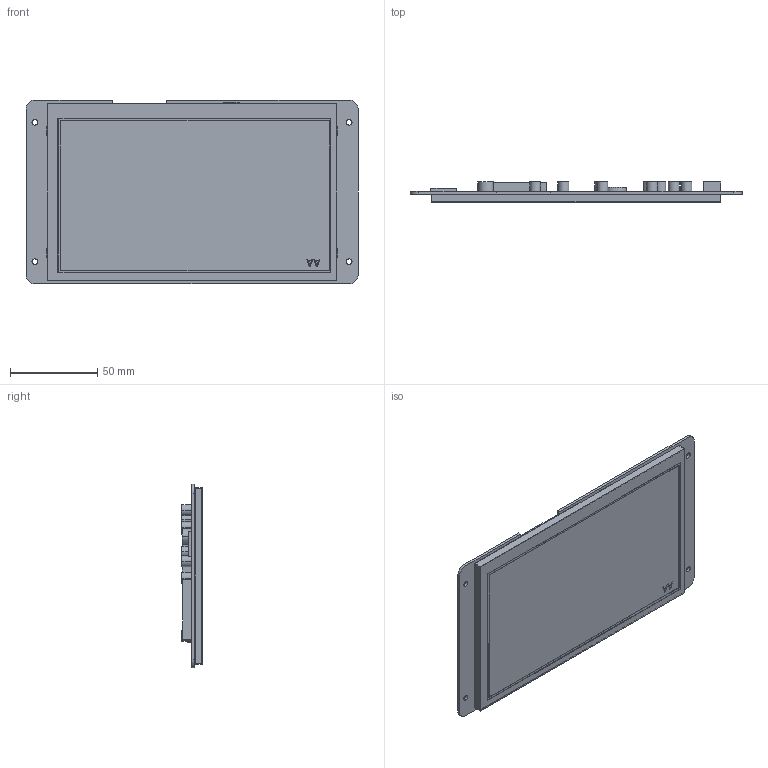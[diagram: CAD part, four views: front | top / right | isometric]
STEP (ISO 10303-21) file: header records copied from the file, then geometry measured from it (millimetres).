
FILE_DESCRIPTION((''),'2;1');
FILE_NAME('DMG10600K070-03WTC_ASM','2022-02-21T',('Administrator'),(''),'PRO/ENGINEER BY PARAMETRIC TECHNOLOGY CORPORATION, 2014320','PRO/ENGINEER BY PARAMETRIC TECHNOLOGY CORPORATION, 2014320','');
FILE_SCHEMA(('CONFIG_CONTROL_DESIGN','SHAPE_APPEARANCE_LAYERS_GROUPS'));
Length unit declared in the file: millimetre
Products named in the file (4): TK070019; LI10600T070HA3004-W; PCB; DMG10600K070-03WTC_ASM
Assembly tree (3 placements, depth 2):
  DMG10600K070-03WTC_ASM
    TK070019
    LI10600T070HA3004-W
    PCB
Bounding box: 190.5 x 11.8 x 105.41 mm (x, y, z)
Volume: 95393.1 mm3; surface area: 89065.3 mm2
Topology: 3 solids, 3 shells, 180 faces, 456 edges, 304 vertices
Faces by surface type: plane 144, cylinder 36
Entity records: 5618 total; most frequent: CARTESIAN_POINT 947, ORIENTED_EDGE 912, DIRECTION 902, EDGE_CURVE 456, VECTOR 384, LINE 384, VERTEX_POINT 304, AXIS2_PLACEMENT_3D 259
